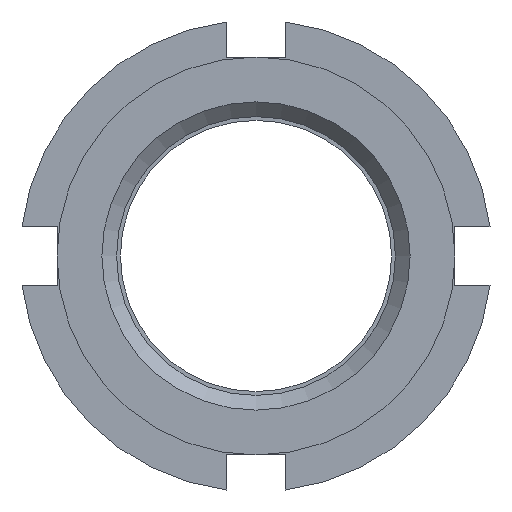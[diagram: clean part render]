
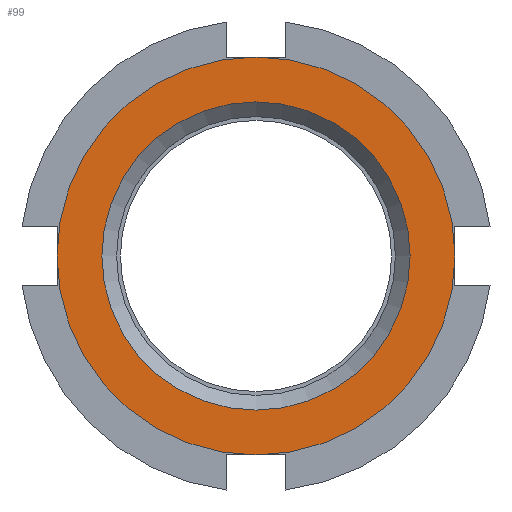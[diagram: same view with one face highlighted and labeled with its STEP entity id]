
A CAD part, left-side view. The second image highlights one B-rep face of the part: STEP entity #99.
In plain terms, the highlighted planar face has unit normal (-1, 0, 0).
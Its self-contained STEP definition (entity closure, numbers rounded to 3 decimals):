
#99 = ADVANCED_FACE( '', ( #167, #168 ), #169, .F. );
#167 = FACE_OUTER_BOUND( '', #245, .T. );
#168 = FACE_BOUND( '', #246, .T. );
#169 = PLANE( '', #247 );
#245 = EDGE_LOOP( '', ( #438 ) );
#246 = EDGE_LOOP( '', ( #439 ) );
#247 = AXIS2_PLACEMENT_3D( '', #440, #441, #442 );
#438 = ORIENTED_EDGE( '', *, *, #569, .F. );
#439 = ORIENTED_EDGE( '', *, *, #549, .T. );
#440 = CARTESIAN_POINT( '', ( 0., 0., 0. ) );
#441 = DIRECTION( '', ( 1., 0., 0. ) );
#442 = DIRECTION( '', ( 0., 0., -1. ) );
#549 = EDGE_CURVE( '', #654, #654, #655, .T. );
#569 = EDGE_CURVE( '', #682, #682, #683, .T. );
#654 = VERTEX_POINT( '', #827 );
#655 = CIRCLE( '', #828, 10.459 );
#682 = VERTEX_POINT( '', #863 );
#683 = CIRCLE( '', #864, 13.5 );
#827 = CARTESIAN_POINT( '', ( 0., 0., -10.459 ) );
#828 = AXIS2_PLACEMENT_3D( '', #944, #945, #946 );
#863 = CARTESIAN_POINT( '', ( 0., 0., -13.5 ) );
#864 = AXIS2_PLACEMENT_3D( '', #991, #992, #993 );
#944 = CARTESIAN_POINT( '', ( 0., 0., 0. ) );
#945 = DIRECTION( '', ( 1., 0., 0. ) );
#946 = DIRECTION( '', ( 0., 0., -1. ) );
#991 = CARTESIAN_POINT( '', ( 0., 0., 0. ) );
#992 = DIRECTION( '', ( 1., 0., 0. ) );
#993 = DIRECTION( '', ( 0., 0., -1. ) );
